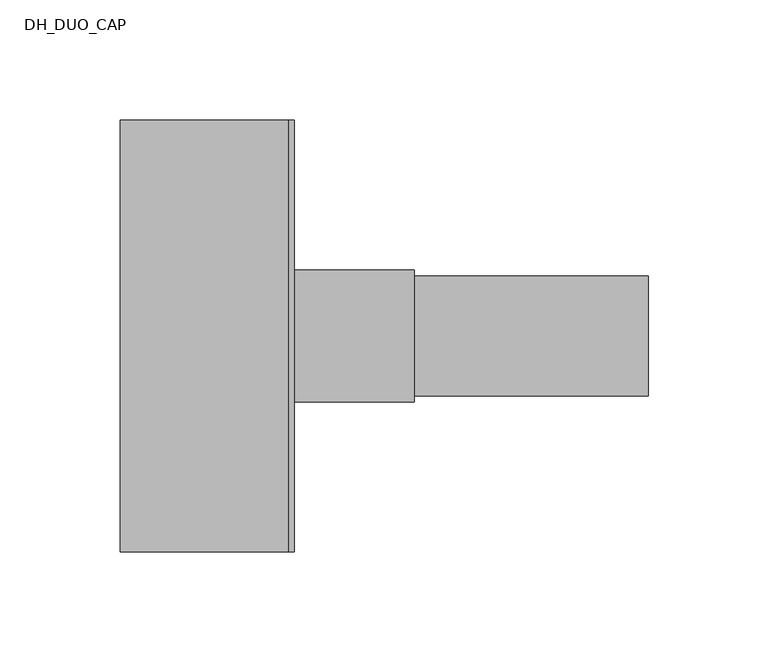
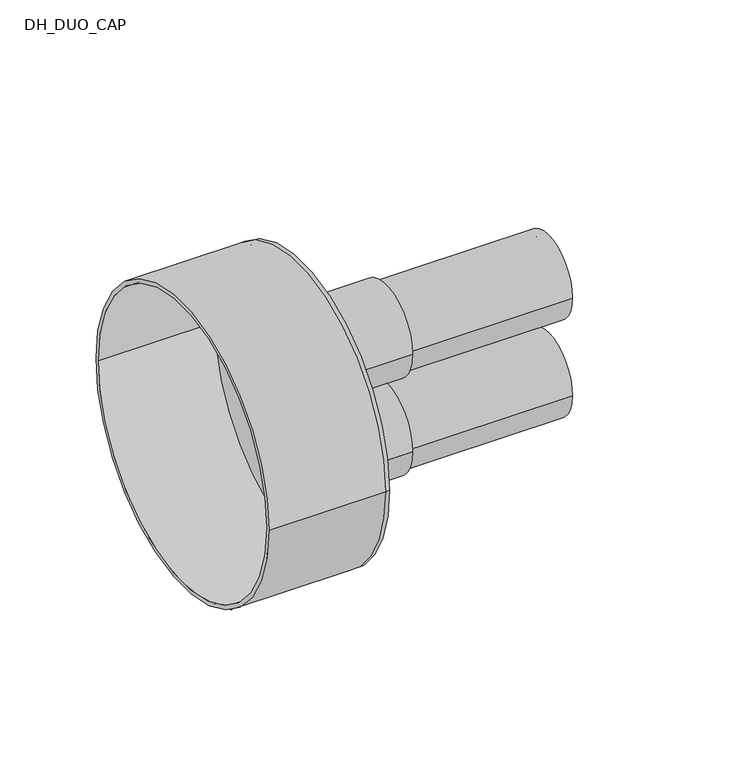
"""IFC4 building model written with IfcOpenShell, lengths in millimetres: pipe fitting geometry, DH_DUO_CAP : RAUVIPEX DUO 11 Heating - Rubber Cap."""

import ifcopenshell
import ifcopenshell.guid

model = None  # the IFC model being written
_history = None  # IfcOwnerHistory: only IFC2X3 demands one
_inside = {}  # id of a spatial element -> (the spatial element, [elements in it])
_under = {}  # id of a project, library or spatial element -> (it, [spatial elements below it])
_declared = {}  # id of a project -> (the project, [libraries it declares])
_typed = {}  # id of a type object -> (the type object, [elements of that type])
_made_of = {}  # id of a material, layer set ... -> (it, [elements and type objects made of it])


def new_model(schema):
    """Start an empty IFC model of exactly this schema.

    Asked for "IFC4X3", IfcOpenShell would pick the latest addendum, in which some entities
    have other attributes; the version numbers below select the first issue.
    IFC2X3 requires an IfcOwnerHistory on every rooted entity: one is made here for all.
    """
    global model, _history
    if schema == "IFC4X3":
        model = ifcopenshell.file(schema_version=(4, 3, 0, 0))
    else:
        model = ifcopenshell.file(schema=schema)
    _inside.clear()
    _under.clear()
    _declared.clear()
    _typed.clear()
    _made_of.clear()
    _history = None
    if model.schema == "IFC2X3":
        org = make("IfcOrganization", Name="unknown")
        user = make(
            "IfcPersonAndOrganization",
            ThePerson=make("IfcPerson", FamilyName="unknown"),
            TheOrganization=org,
        )
        app = make(
            "IfcApplication",
            ApplicationDeveloper=org,
            Version="unknown",
            ApplicationFullName="unknown",
            ApplicationIdentifier="unknown",
        )
        _history = make(
            "IfcOwnerHistory",
            OwningUser=user,
            OwningApplication=app,
            ChangeAction="ADDED",
            CreationDate=0,
        )
    return model


def make(cls, **values):
    """One entity of the class cls with the attributes given. An attribute that is None is left unset."""
    return model.create_entity(
        cls, **{name: value for name, value in values.items() if value is not None}
    )


def rooted(cls, **values):
    """An entity with a GlobalId (a new one), such as an element, a storey or a relation."""
    return make(cls, GlobalId=ifcopenshell.guid.new(), OwnerHistory=_history, **values)


def si_unit(unit_type, name, prefix=None):
    """IfcSIUnit, for example si_unit("LENGTHUNIT", "METRE", prefix="MILLI")."""
    return make("IfcSIUnit", UnitType=unit_type, Prefix=prefix, Name=name)


def assignment(units):
    """IfcUnitAssignment: the units of a project."""
    return None if units is None else make("IfcUnitAssignment", Units=units)


def point(xyz):
    """IfcCartesianPoint."""
    return None if xyz is None else make("IfcCartesianPoint", Coordinates=xyz)


def direction(xyz):
    """IfcDirection."""
    return None if xyz is None else make("IfcDirection", DirectionRatios=xyz)


def frame(location, z_axis=None, x_axis=None):
    """IfcAxis2Placement3D, a coordinate frame: its origin and axes. An axis left out is left unset."""
    return make(
        "IfcAxis2Placement3D",
        Location=point(location),
        Axis=direction(z_axis),
        RefDirection=direction(x_axis),
    )


def frame_2d(location, x_axis=None):
    """IfcAxis2Placement2D, a coordinate frame in the plane: its origin and x axis."""
    return make(
        "IfcAxis2Placement2D", Location=point(location), RefDirection=direction(x_axis)
    )


def origin():
    """The frame at (0, 0, 0) with its axes left unset."""
    return frame((0.0, 0.0, 0.0))


def place(relative_to, where):
    """IfcLocalPlacement: puts the frame where relative to a parent placement (None: the world)."""
    return make(
        "IfcLocalPlacement", PlacementRelTo=relative_to, RelativePlacement=where
    )


def context(
    kind, dimensions, precision=None, world=None, true_north=None, identifier=None
):
    """IfcGeometricRepresentationContext, for example the 3D "Model" context."""
    return make(
        "IfcGeometricRepresentationContext",
        ContextIdentifier=identifier,
        ContextType=kind,
        CoordinateSpaceDimension=dimensions,
        Precision=precision,
        WorldCoordinateSystem=world,
        TrueNorth=true_north,
    )


def project(units=None, contexts=None):
    """IfcProject with its units and contexts."""
    return rooted(
        "IfcProject",
        Name="project",
        RepresentationContexts=contexts,
        UnitsInContext=assignment(units),
    )


def spatial(cls, under=None, at=None, **own):
    """A site, building, storey or space (cls), placed at a placement, below another one or the project."""
    s = rooted(cls, ObjectPlacement=at, **own)
    if under is not None:
        _under.setdefault(under.id(), (under, []))[1].append(s)
    return s


def polyline(points):
    """IfcPolyline through the points."""
    return make("IfcPolyline", Points=[point(p) for p in points])


def circle_curve(where, radius):
    """IfcCircle in the frame where."""
    return make("IfcCircle", Position=where, Radius=radius)


def trimmed(basis, trim1, trim2, sense, master):
    """IfcTrimmedCurve: the piece of a basis curve between two trims."""
    return make(
        "IfcTrimmedCurve",
        BasisCurve=basis,
        Trim1=trim1,
        Trim2=trim2,
        SenseAgreement=sense,
        MasterRepresentation=master,
    )


def segment(curve, same_sense, transition):
    """IfcCompositeCurveSegment."""
    return make(
        "IfcCompositeCurveSegment",
        Transition=transition,
        SameSense=same_sense,
        ParentCurve=curve,
    )


def composite_curve(segments, self_intersect=None):
    """IfcCompositeCurve: segments joined end to end."""
    return make("IfcCompositeCurve", Segments=segments, SelfIntersect=self_intersect)


def outline(outer, holes=None, kind="AREA"):
    """IfcArbitraryClosedProfileDef: a profile drawn as a closed curve; with holes, ...WithVoids."""
    if holes is None:
        return make("IfcArbitraryClosedProfileDef", ProfileType=kind, OuterCurve=outer)
    return make(
        "IfcArbitraryProfileDefWithVoids",
        ProfileType=kind,
        OuterCurve=outer,
        InnerCurves=holes,
    )


def extrude(swept, where, along, depth):
    """IfcExtrudedAreaSolid: the profile swept, set in the frame where, extruded along a direction by depth."""
    return make(
        "IfcExtrudedAreaSolid",
        SweptArea=swept,
        Position=where,
        ExtrudedDirection=direction(along),
        Depth=depth,
    )


def shape(context_of_items, identifier, shape_type, items):
    """IfcShapeRepresentation: the items that make up one representation, for example the "Body"."""
    return make(
        "IfcShapeRepresentation",
        ContextOfItems=context_of_items,
        RepresentationIdentifier=identifier,
        RepresentationType=shape_type,
        Items=items,
    )


def source(mapping_origin, context_of_items, identifier, shape_type, items):
    """IfcRepresentationMap: a shape defined once, which mapped items show again and again."""
    return make(
        "IfcRepresentationMap",
        MappingOrigin=mapping_origin,
        MappedRepresentation=shape(context_of_items, identifier, shape_type, items),
    )


def transform(
    local_origin,
    x_axis=None,
    y_axis=None,
    z_axis=None,
    scale=None,
    scale2=None,
    scale3=None,
    uniform=True,
):
    """IfcCartesianTransformationOperator3D, or its non-uniform kind. x_axis, y_axis, z_axis: its Axis1, 2, 3."""
    if uniform:
        return make(
            "IfcCartesianTransformationOperator3D",
            Axis1=direction(x_axis),
            Axis2=direction(y_axis),
            LocalOrigin=point(local_origin),
            Scale=scale,
            Axis3=direction(z_axis),
        )
    return make(
        "IfcCartesianTransformationOperator3DnonUniform",
        Axis1=direction(x_axis),
        Axis2=direction(y_axis),
        LocalOrigin=point(local_origin),
        Scale=scale,
        Axis3=direction(z_axis),
        Scale2=scale2,
        Scale3=scale3,
    )


def mapped(mapping_source, mapping_target):
    """IfcMappedItem: shows the shape of a source again, moved by a transform."""
    return make(
        "IfcMappedItem", MappingSource=mapping_source, MappingTarget=mapping_target
    )


def made_of(thing, what):
    """Note that an element or type object is made of a material, layer set ...; save() writes the relation."""
    if what is not None:
        _made_of.setdefault(what.id(), (what, []))[1].append(thing)
    return thing


def element(
    cls,
    number,
    at=None,
    inside=None,
    cuts=None,
    type_object=None,
    material=None,
    context=None,
    identifier="Body",
    shape_type=None,
    held_by="IfcProductDefinitionShape",
    body=None,
    shapes=None,
    **own,
):
    """One element of the class cls, such as IfcWall. Its Tag is "e" and its number.

    at: its placement. inside: the storey or other place that contains it. cuts: it is an
    opening in that element (IfcRelVoidsElement). A single representation is given by context,
    identifier, shape_type and body (its items); several are given by shapes. held_by: the class
    of the entity that holds the representations. save() writes the other relations.
    """
    e = rooted(cls, Tag="e%d" % number, ObjectPlacement=at, **own)
    if body is not None:
        shapes = [shape(context, identifier, shape_type, body)]
    if shapes is not None:
        e.Representation = make(held_by, Representations=shapes)
    if inside is not None:
        _inside.setdefault(inside.id(), (inside, []))[1].append(e)
    if cuts is not None:
        rooted(
            "IfcRelVoidsElement", RelatingBuildingElement=cuts, RelatedOpeningElement=e
        )
    if type_object is not None:
        _typed.setdefault(type_object.id(), (type_object, []))[1].append(e)
    return made_of(e, material)


def aggregate(whole, parts):
    """IfcRelAggregates: a whole, such as a stair, and the parts it consists of."""
    return rooted("IfcRelAggregates", RelatingObject=whole, RelatedObjects=parts)


def save(model, path):
    """Write the relations noted so far, then the file.

    IfcRelAggregates (storeys below a building ...), IfcRelContainedInSpatialStructure (elements
    in a storey), IfcRelDefinesByType, IfcRelAssociatesMaterial and IfcRelDeclares: one each for
    every whole, place, type object, material and project.
    """
    for whole, parts in _under.values():
        aggregate(whole, parts)
    for where, things in _inside.values():
        rooted(
            "IfcRelContainedInSpatialStructure",
            RelatedElements=things,
            RelatingStructure=where,
        )
    for kind, things in _typed.values():
        rooted("IfcRelDefinesByType", RelatedObjects=things, RelatingType=kind)
    for what, things in _made_of.values():
        rooted("IfcRelAssociatesMaterial", RelatedObjects=things, RelatingMaterial=what)
    for by, libraries in _declared.values():
        rooted("IfcRelDeclares", RelatingContext=by, RelatedDefinitions=libraries)
    model.write(path)


def plane_surface(at):
    """IfcPlane: the flat surface through the origin of the frame at, square to its z axis."""
    return make("IfcPlane", Position=at)


def cylinder_surface(at, radius):
    """IfcCylindricalSurface: all points at the distance radius from the z axis of the frame at."""
    return make("IfcCylindricalSurface", Position=at, Radius=radius)


def revolved_surface(curve, axis_point, axis_direction):
    """IfcSurfaceOfRevolution: the curve turned about the line through axis_point along axis_direction."""
    return make(
        "IfcSurfaceOfRevolution",
        SweptCurve=make("IfcArbitraryOpenProfileDef", ProfileType="CURVE", Curve=curve),
        AxisPosition=make("IfcAxis1Placement", Location=point(axis_point), Axis=direction(axis_direction)),
    )


def advanced_brep(points, edges, surfaces, faces):
    """IfcAdvancedBrep: a solid bounded by faces that lie on surfaces and meet in shared edges.

    An edge is (start, end): straight between two places in points (the first is 0);
    or (start, end, curve); or (start, end, curve, False) where it runs against its curve.
    A face is (place in surfaces, loops), or (place, loops, False) where it looks against
    its surface's normal. A loop lists edges by number (the first is 1), with a minus sign
    where the edge is run from its end to its start. The first loop is the outer one.
    """
    corners = [point(p) for p in points]
    vertices = [make("IfcVertexPoint", VertexGeometry=c) for c in corners]
    made = []
    for start, end, *more in edges:
        made.append(
            make(
                "IfcEdgeCurve",
                EdgeStart=vertices[start],
                EdgeEnd=vertices[end],
                EdgeGeometry=more[0] if more else make("IfcPolyline", Points=[corners[start], corners[end]]),
                SameSense=more[1] if len(more) > 1 else True,
            )
        )
    hull = []
    for where, loops, *sense in faces:
        bounds = []
        for j, loop in enumerate(loops):
            ring = [make("IfcOrientedEdge", EdgeElement=made[abs(k) - 1], Orientation=k > 0) for k in loop]
            bounds.append(
                make(
                    "IfcFaceOuterBound" if j == 0 else "IfcFaceBound",
                    Bound=make("IfcEdgeLoop", EdgeList=ring),
                    Orientation=True,
                )
            )
        hull.append(make("IfcAdvancedFace", Bounds=bounds, FaceSurface=surfaces[where], SameSense=sense[0] if sense else True))
    return make("IfcAdvancedBrep", Outer=make("IfcClosedShell", CfsFaces=hull))


def dh_duo_cap_27d9f26a(model_context):
    return source(origin(), model_context, "Body", "SolidModel", [
        extrude(outline(composite_curve([segment(trimmed(circle_curve(frame_2d((0.0, -31.0)), 25.0), [point((-25.0, -31.0))], [point((25.0, -31.0))], False, "CARTESIAN"), True, "CONTINUOUS"), segment(trimmed(circle_curve(frame_2d((0.0, -31.0)), 25.0), [point((25.0, -31.0))], [point((-25.0, -31.0))], False, "CARTESIAN"), True, "CONTINUOUS")], self_intersect=False), holes=[composite_curve([segment(trimmed(circle_curve(frame_2d((0.0, -31.0)), 20.4), [point((-20.4, -31.0))], [point((20.4, -31.0))], True, "CARTESIAN"), True, "CONTINUOUS"), segment(trimmed(circle_curve(frame_2d((0.0, -31.0)), 20.4), [point((20.4, -31.0))], [point((-20.4, -31.0))], True, "CARTESIAN"), True, "CONTINUOUS")], self_intersect=False)]), frame((0.0, 0.0, 0.0), z_axis=(1.0, 0.0, 0.0), x_axis=(0.0, 1.0, 0.0)), (0.0, 0.0, 1.0), 150.0),
        extrude(outline(composite_curve([segment(trimmed(circle_curve(frame_2d((0.0, 31.0)), 25.0), [point((-25.0, 31.0))], [point((25.0, 31.0))], False, "CARTESIAN"), True, "CONTINUOUS"), segment(trimmed(circle_curve(frame_2d((0.0, 31.0)), 25.0), [point((25.0, 31.0))], [point((-25.0, 31.0))], False, "CARTESIAN"), True, "CONTINUOUS")], self_intersect=False), holes=[composite_curve([segment(trimmed(circle_curve(frame_2d((0.0, 31.0)), 20.4), [point((-20.4, 31.0))], [point((20.4, 31.0))], True, "CARTESIAN"), True, "CONTINUOUS"), segment(trimmed(circle_curve(frame_2d((0.0, 31.0)), 20.4), [point((20.4, 31.0))], [point((-20.4, 31.0))], True, "CARTESIAN"), True, "CONTINUOUS")], self_intersect=False)]), frame((0.0, 0.0, 0.0), z_axis=(1.0, 0.0, 0.0), x_axis=(0.0, 1.0, 0.0)), (0.0, 0.0, 1.0), 150.0),
        advanced_brep(
        [(-70.0, -90.0, 0.0), (-70.0, 90.0, 0.0), (-70.0, -87.5, 0.0), (-70.0, 87.5, 0.0), (0.0, -87.5, 0.0), (0.0, 87.5, 0.0), (0.0, -90.0, 0.0), (0.0, 90.0, 0.0), (0.0, 25.0, 31.0), (0.0, -25.0, 31.0), (0.0, 25.0, -31.0), (0.0, -25.0, -31.0), (2.5, -90.0, 0.0), (2.5, 90.0, 0.0), (2.5, -25.0, 31.0), (2.5, 25.0, 31.0), (2.5, -25.0, -31.0), (2.5, 25.0, -31.0)],
        [
            (0, 1, circle_curve(frame((-70.0, 0.0, 0.0), z_axis=(-1.0, 0.0, 0.0), x_axis=(0.0, 1.0, 0.0)), 90.0)),
            (1, 0, circle_curve(frame((-70.0, 0.0, 0.0), z_axis=(-1.0, 0.0, 0.0), x_axis=(0.0, 1.0, 0.0)), 90.0)),
            (2, 3, circle_curve(frame((-70.0, 0.0, 0.0), z_axis=(1.0, 0.0, 0.0), x_axis=(0.0, 1.0, 0.0)), 87.5)),
            (3, 2, circle_curve(frame((-70.0, 0.0, 0.0), z_axis=(1.0, 0.0, 0.0), x_axis=(0.0, 1.0, 0.0)), 87.5)),
            (2, 4),
            (4, 5, circle_curve(frame((0.0, 0.0, 0.0), z_axis=(1.0, 0.0, 0.0), x_axis=(0.0, 1.0, 0.0)), 87.5)),
            (5, 3),
            (5, 4, circle_curve(frame((0.0, 0.0, 0.0), z_axis=(1.0, 0.0, 0.0), x_axis=(0.0, 1.0, 0.0)), 87.5)),
            (0, 6),
            (6, 7, circle_curve(frame((0.0, 0.0, 0.0), z_axis=(-1.0, 0.0, 0.0), x_axis=(0.0, 1.0, 0.0)), 90.0)),
            (7, 1),
            (7, 6, circle_curve(frame((0.0, 0.0, 0.0), z_axis=(-1.0, 0.0, 0.0), x_axis=(0.0, 1.0, 0.0)), 90.0)),
            (8, 9, circle_curve(frame((0.0, 0.0, 31.0), z_axis=(1.0, 0.0, 0.0), x_axis=(0.0, 1.0, 0.0)), 25.0)),
            (9, 8, circle_curve(frame((0.0, 0.0, 31.0), z_axis=(1.0, 0.0, 0.0), x_axis=(0.0, 1.0, 0.0)), 25.0)),
            (10, 11, circle_curve(frame((0.0, 0.0, -31.0), z_axis=(1.0, 0.0, 0.0), x_axis=(0.0, 1.0, 0.0)), 25.0)),
            (11, 10, circle_curve(frame((0.0, 0.0, -31.0), z_axis=(1.0, 0.0, 0.0), x_axis=(0.0, 1.0, 0.0)), 25.0)),
            (12, 13, circle_curve(frame((2.5, 0.0, 0.0), z_axis=(1.0, 0.0, 0.0), x_axis=(0.0, 1.0, 0.0)), 90.0)),
            (13, 12, circle_curve(frame((2.5, 0.0, 0.0), z_axis=(1.0, 0.0, 0.0), x_axis=(0.0, 1.0, 0.0)), 90.0)),
            (14, 15, circle_curve(frame((2.5, 0.0, 31.0), z_axis=(-1.0, 0.0, 0.0), x_axis=(0.0, 1.0, 0.0)), 25.0)),
            (15, 14, circle_curve(frame((2.5, 0.0, 31.0), z_axis=(-1.0, 0.0, 0.0), x_axis=(0.0, 1.0, 0.0)), 25.0)),
            (16, 17, circle_curve(frame((2.5, 0.0, -31.0), z_axis=(-1.0, 0.0, 0.0), x_axis=(0.0, 1.0, 0.0)), 25.0)),
            (17, 16, circle_curve(frame((2.5, 0.0, -31.0), z_axis=(-1.0, 0.0, 0.0), x_axis=(0.0, 1.0, 0.0)), 25.0)),
            (13, 7),
            (6, 12),
            (8, 15),
            (14, 9),
            (10, 17),
            (16, 11),
        ],
        [
            plane_surface(frame((-70.0, 0.0, 0.0), z_axis=(-1.0, 0.0, 0.0), x_axis=(0.0, 0.0, 1.0))),
            revolved_surface(polyline([(0.0, 87.5, 0.0), (-70.0, 87.5, 0.0)]), (-70.0, 0.0, 0.0), (1.0, 0.0, 0.0)),
            cylinder_surface(frame((-70.0, 0.0, 0.0), z_axis=(-1.0, 0.0, 0.0), x_axis=(0.0, 1.0, 0.0)), 90.0),
            plane_surface(frame((0.0, 0.0, 0.0), z_axis=(-1.0, 0.0, 0.0), x_axis=(0.0, 0.0, 1.0))),
            plane_surface(frame((2.5, 0.0, 0.0), z_axis=(1.0, 0.0, 0.0), x_axis=(0.0, 0.0, 1.0))),
            cylinder_surface(frame((0.0, 0.0, 0.0), z_axis=(-1.0, 0.0, 0.0), x_axis=(0.0, 1.0, 0.0)), 90.0),
            revolved_surface(polyline([(0.0, 25.0, 31.0), (2.5, 25.0, 31.0)]), (0.0, 0.0, 31.0), (-1.0, 0.0, 0.0)),
            revolved_surface(polyline([(0.0, 25.0, -31.0), (2.5, 25.0, -31.0)]), (0.0, 0.0, -31.0), (-1.0, 0.0, 0.0)),
        ],
        [
            (0, [[1, 2], [3, 4]]),
            (1, [[-3, 5, 6, 7]]),
            (1, [[-4, -7, 8, -5]]),
            (2, [[-1, 9, 10, 11]]),
            (2, [[-2, -11, 12, -9]]),
            (3, [[-6, -8], [13, 14], [15, 16]]),
            (4, [[17, 18], [19, 20], [21, 22]]),
            (5, [[-18, 23, -10, 24]]),
            (5, [[-17, -24, -12, -23]]),
            (6, [[25, -19, 26, -13]]),
            (6, [[-25, -14, -26, -20]]),
            (7, [[27, -21, 28, -15]]),
            (7, [[-27, -16, -28, -22]]),
        ],
    ),
        extrude(outline(composite_curve([segment(trimmed(circle_curve(frame_2d((0.0, -31.0)), 27.5), [point((-27.5, -31.0))], [point((27.5, -31.0))], False, "CARTESIAN"), True, "CONTINUOUS"), segment(trimmed(circle_curve(frame_2d((0.0, -31.0)), 27.5), [point((27.5, -31.0))], [point((-27.5, -31.0))], False, "CARTESIAN"), True, "CONTINUOUS")], self_intersect=False), holes=[composite_curve([segment(trimmed(circle_curve(frame_2d((0.0, -31.0)), 25.0), [point((-25.0, -31.0))], [point((25.0, -31.0))], True, "CARTESIAN"), True, "CONTINUOUS"), segment(trimmed(circle_curve(frame_2d((0.0, -31.0)), 25.0), [point((25.0, -31.0))], [point((-25.0, -31.0))], True, "CARTESIAN"), True, "CONTINUOUS")], self_intersect=False)]), frame((2.5, 0.0, 0.0), z_axis=(1.0, 0.0, 0.0), x_axis=(0.0, 1.0, 0.0)), (0.0, 0.0, 1.0), 50.0),
        extrude(outline(composite_curve([segment(trimmed(circle_curve(frame_2d((0.0, 31.0)), 27.5), [point((-27.5, 31.0))], [point((27.5, 31.0))], False, "CARTESIAN"), True, "CONTINUOUS"), segment(trimmed(circle_curve(frame_2d((0.0, 31.0)), 27.5), [point((27.5, 31.0))], [point((-27.5, 31.0))], False, "CARTESIAN"), True, "CONTINUOUS")], self_intersect=False), holes=[composite_curve([segment(trimmed(circle_curve(frame_2d((0.0, 31.0)), 25.0), [point((-25.0, 31.0))], [point((25.0, 31.0))], True, "CARTESIAN"), True, "CONTINUOUS"), segment(trimmed(circle_curve(frame_2d((0.0, 31.0)), 25.0), [point((25.0, 31.0))], [point((-25.0, 31.0))], True, "CARTESIAN"), True, "CONTINUOUS")], self_intersect=False)]), frame((2.5, 0.0, 0.0), z_axis=(1.0, 0.0, 0.0), x_axis=(0.0, 1.0, 0.0)), (0.0, 0.0, 1.0), 50.0),
    ])


if __name__ == "__main__":
    model = new_model("IFC4")
    model_context = context("Model", 3, world=origin())
    ifc_project = project(units=[si_unit("LENGTHUNIT", "METRE", prefix="MILLI")], contexts=[model_context])
    site = spatial("IfcSite", under=ifc_project)
    building = spatial("IfcBuilding", under=site)
    placement = place(None, origin())
    dh_duo_cap_shape = dh_duo_cap_27d9f26a(model_context)
    element("IfcPipeFitting", 1, ObjectType="DH_DUO_CAP : RAUVIPEX DUO 11 Heating - Rubber Cap", at=placement, inside=building, context=model_context, shape_type="MappedRepresentation", body=[
        mapped(dh_duo_cap_shape, transform((0.0, 0.0, 0.0), x_axis=(1.0, 0.0, 0.0), y_axis=(0.0, 1.0, 0.0), z_axis=(0.0, 0.0, 1.0))),
    ])
    save(model, "model.ifc")
